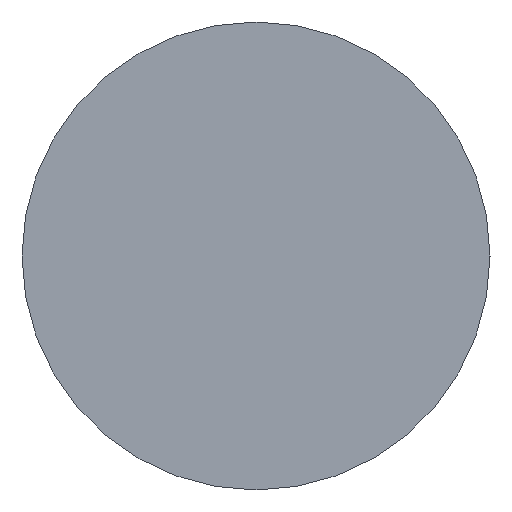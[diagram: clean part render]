
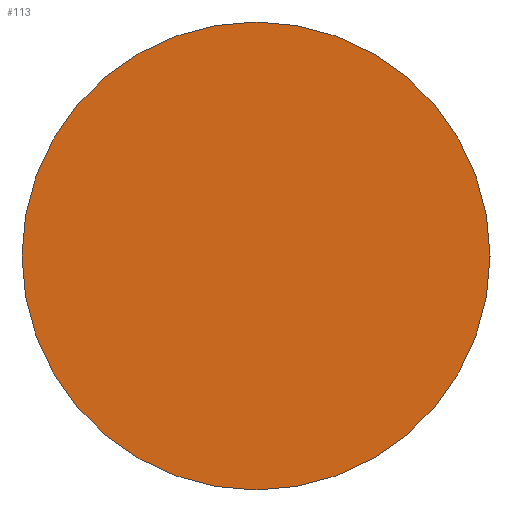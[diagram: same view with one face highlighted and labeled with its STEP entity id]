
A CAD part, left-side view. The second image highlights one B-rep face of the part: STEP entity #113.
In plain terms, the highlighted planar face has unit normal (-1, 0, 0).
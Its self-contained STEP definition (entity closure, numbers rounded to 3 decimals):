
#21 = EDGE_CURVE('',#22,#22,#24,.T.);
#22 = VERTEX_POINT('',#23);
#23 = CARTESIAN_POINT('',(-29.2,38.5,15.322));
#24 = SURFACE_CURVE('',#25,(#30,#42),.PCURVE_S1.);
#25 = CIRCLE('',#26,1.);
#26 = AXIS2_PLACEMENT_3D('',#27,#28,#29);
#27 = CARTESIAN_POINT('',(-29.2,38.5,14.322));
#28 = DIRECTION('',(1.,-0.,0.));
#29 = DIRECTION('',(-0.,-0.,1.));
#30 = PCURVE('',#31,#36);
#31 = CYLINDRICAL_SURFACE('',#32,1.);
#32 = AXIS2_PLACEMENT_3D('',#33,#34,#35);
#33 = CARTESIAN_POINT('',(-7.4,38.5,14.322));
#34 = DIRECTION('',(-1.,-0.,-0.));
#35 = DIRECTION('',(-0.,-0.,1.));
#36 = DEFINITIONAL_REPRESENTATION('',(#37),#41);
#37 = LINE('',#38,#39);
#38 = CARTESIAN_POINT('',(-0.,21.8));
#39 = VECTOR('',#40,1.);
#40 = DIRECTION('',(-1.,0.));
#41 = ( GEOMETRIC_REPRESENTATION_CONTEXT(2) 
PARAMETRIC_REPRESENTATION_CONTEXT() REPRESENTATION_CONTEXT('2D SPACE',''
  ) );
#42 = PCURVE('',#43,#48);
#43 = PLANE('',#44);
#44 = AXIS2_PLACEMENT_3D('',#45,#46,#47);
#45 = CARTESIAN_POINT('',(-29.2,38.5,14.322));
#46 = DIRECTION('',(-1.,-0.,-0.));
#47 = DIRECTION('',(0.,0.,-1.));
#48 = DEFINITIONAL_REPRESENTATION('',(#49),#57);
#49 = ( BOUNDED_CURVE() B_SPLINE_CURVE(2,(#50,#51,#52,#53,#54,#55,#56),
.UNSPECIFIED.,.T.,.F.) B_SPLINE_CURVE_WITH_KNOTS((1,2,2,2,2,1),(
    -2.094,0.,2.094,4.189,6.283,
8.378),.UNSPECIFIED.) CURVE() GEOMETRIC_REPRESENTATION_ITEM() 
RATIONAL_B_SPLINE_CURVE((1.,0.5,1.,0.5,1.,0.5,1.)) REPRESENTATION_ITEM(
  '') );
#50 = CARTESIAN_POINT('',(-1.,0.));
#51 = CARTESIAN_POINT('',(-1.,1.732));
#52 = CARTESIAN_POINT('',(0.5,0.866));
#53 = CARTESIAN_POINT('',(2.,0.));
#54 = CARTESIAN_POINT('',(0.5,-0.866));
#55 = CARTESIAN_POINT('',(-1.,-1.732));
#56 = CARTESIAN_POINT('',(-1.,0.));
#57 = ( GEOMETRIC_REPRESENTATION_CONTEXT(2) 
PARAMETRIC_REPRESENTATION_CONTEXT() REPRESENTATION_CONTEXT('2D SPACE',''
  ) );
#113 = ADVANCED_FACE('',(#114),#43,.T.);
#114 = FACE_BOUND('',#115,.F.);
#115 = EDGE_LOOP('',(#116));
#116 = ORIENTED_EDGE('',*,*,#21,.T.);
